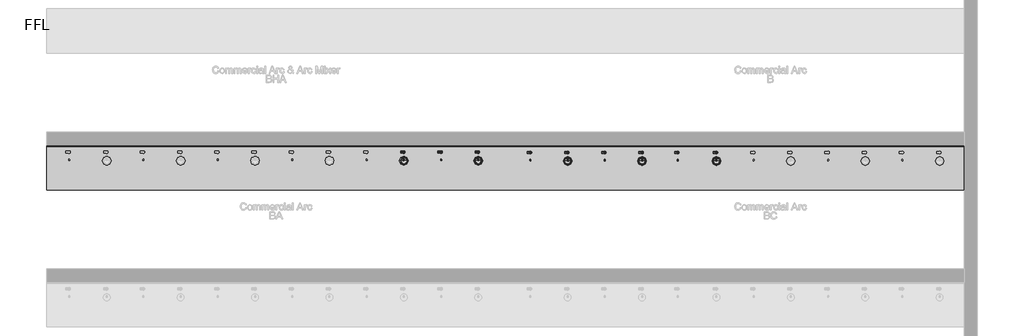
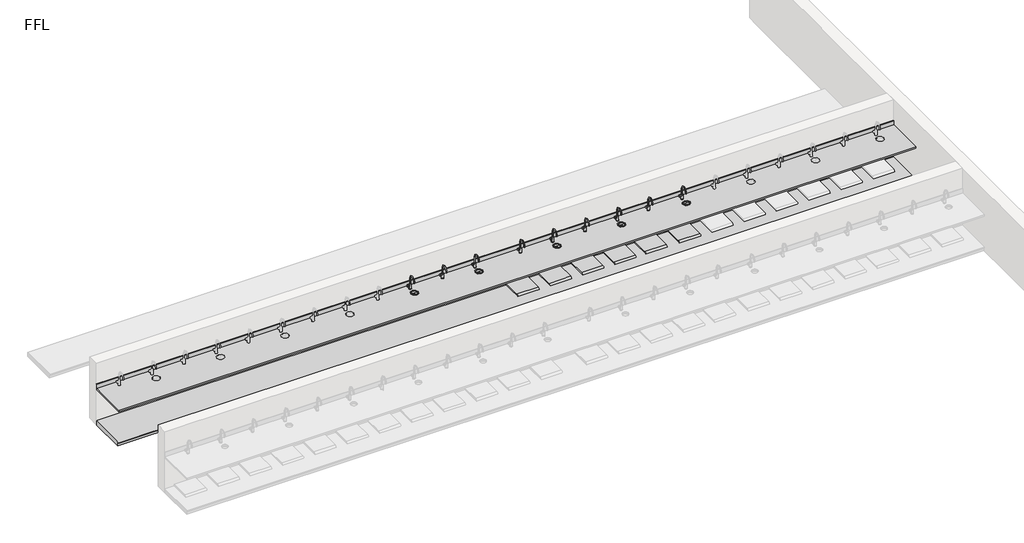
# One storey, part 5 of 10: 26 flow terminals, 2 furniture elements.
"""IFC4 building model written with IfcOpenShell, lengths in millimetres."""

from ifc_helpers import new_model, si_unit, frame, origin, place, context, project, spatial, polyline, circle_curve, transform, mapped, element, save
from ifc_brep_helpers import plane_surface, revolved_surface, advanced_brep
from components import flow_terminal_1fd3c137, bcs_and_bc_6de74493, bright_chrome_dafbc2dd, brushed_chrome_743c02cf, generic_plinth_900mm_f287d53f

model = new_model("IFC4")

# Units and contexts
model_context = context("Model", 3, world=origin())
ifc_project = project(units=[si_unit("LENGTHUNIT", "METRE", prefix="MILLI")], contexts=[model_context])

# Site, building, storey
site = spatial("IfcSite", under=ifc_project)
building = spatial("IfcBuilding", under=site)
storey = spatial("IfcBuildingStorey", under=building, Name="FFL", Elevation=0.0)

# Flow terminals
placement = place(None, origin())
flow_terminal_shape = flow_terminal_1fd3c137(model_context)
element("IfcFlowTerminal", 1, ObjectType="z_PlumFixt_Zenith_Booster : Booster", at=placement, inside=storey, context=model_context, shape_type="MappedRepresentation", body=[
    mapped(flow_terminal_shape, transform((6536.2647071, 2380.2393304, 538.0), x_axis=(1.0, 0.0, 0.0), y_axis=(0.0, 1.0, 0.0), z_axis=(0.0, 0.0, 1.0))),
])
element("IfcFlowTerminal", 2, ObjectType="z_PlumFixt_Zenith_Booster : Booster", at=placement, inside=storey, context=model_context, shape_type="MappedRepresentation", body=[
    mapped(flow_terminal_shape, transform((5758.2647071, 2380.2393304, 538.0), x_axis=(1.0, 0.0, 0.0), y_axis=(0.0, 1.0, 0.0), z_axis=(0.0, 0.0, 1.0))),
])
element("IfcFlowTerminal", 3, ObjectType="z_PlumFixt_Zenith_Booster : Booster", at=placement, inside=storey, context=model_context, shape_type="MappedRepresentation", body=[
    mapped(flow_terminal_shape, transform((5036.2647071, 2380.2393304, 538.0), x_axis=(1.0, 0.0, 0.0), y_axis=(0.0, 1.0, 0.0), z_axis=(0.0, 0.0, 1.0))),
])
element("IfcFlowTerminal", 4, ObjectType="z_PlumFixt_Zenith_Booster : Booster", at=placement, inside=storey, context=model_context, shape_type="MappedRepresentation", body=[
    mapped(flow_terminal_shape, transform((1733.2647071, 2380.2393304, 498.0), x_axis=(1.0, 0.0, 0.0), y_axis=(0.0, 1.0, 0.0), z_axis=(0.0, 0.0, 1.0))),
])
element("IfcFlowTerminal", 5, ObjectType="z_PlumFixt_Zenith_Booster : Booster", at=placement, inside=storey, context=model_context, shape_type="MappedRepresentation", body=[
    mapped(flow_terminal_shape, transform((983.2647071, 2380.2393304, 498.0), x_axis=(1.0, 0.0, 0.0), y_axis=(0.0, 1.0, 0.0), z_axis=(0.0, 0.0, 1.0))),
])
element("IfcFlowTerminal", 6, ObjectType="z_PlumFixt_Zenith_Booster : Booster", at=placement, inside=storey, context=model_context, shape_type="MappedRepresentation", body=[
    mapped(flow_terminal_shape, transform((233.2647071, 2380.2393304, 498.0), x_axis=(1.0, 0.0, 0.0), y_axis=(0.0, 1.0, 0.0), z_axis=(0.0, 0.0, 1.0))),
])
bcs_and_bc_shape = bcs_and_bc_6de74493(model_context)
element("IfcFlowTerminal", 7, ObjectType="z_PlumFixt_Zenith_Vent Tray : BCS and BC", at=placement, inside=storey, context=model_context, shape_type="MappedRepresentation", body=[
    mapped(bcs_and_bc_shape, transform((2786.2647071, 2200.7393304, 100.0), x_axis=(1.0, 0.0, 0.0), y_axis=(0.0, 1.0, 0.0), z_axis=(0.0, 0.0, 1.0))),
])
element("IfcFlowTerminal", 8, ObjectType="z_PlumFixt_Zenith_Vent Tray : BCS and BC", at=placement, inside=storey, context=model_context, shape_type="MappedRepresentation", body=[
    mapped(bcs_and_bc_shape, transform((3536.2647071, 2200.7393304, 100.0), x_axis=(1.0, 0.0, 0.0), y_axis=(0.0, 1.0, 0.0), z_axis=(0.0, 0.0, 1.0))),
])
element("IfcFlowTerminal", 9, ObjectType="z_PlumFixt_Zenith_Vent Tray : BCS and BC", at=placement, inside=storey, context=model_context, shape_type="MappedRepresentation", body=[
    mapped(bcs_and_bc_shape, transform((4286.2647071, 2200.7393304, 100.0), x_axis=(1.0, 0.0, 0.0), y_axis=(0.0, 1.0, 0.0), z_axis=(0.0, 0.0, 1.0))),
])
element("IfcFlowTerminal", 10, ObjectType="z_PlumFixt_Zenith_Vent Tray : BCS and BC", at=placement, inside=storey, context=model_context, shape_type="MappedRepresentation", body=[
    mapped(bcs_and_bc_shape, transform((5036.2647071, 2200.7393304, 100.0), x_axis=(1.0, 0.0, 0.0), y_axis=(0.0, 1.0, 0.0), z_axis=(0.0, 0.0, 1.0))),
])
element("IfcFlowTerminal", 11, ObjectType="z_PlumFixt_Zenith_Vent Tray : BCS and BC", at=placement, inside=storey, context=model_context, shape_type="MappedRepresentation", body=[
    mapped(bcs_and_bc_shape, transform((5758.2647071, 2200.7393304, 100.0), x_axis=(1.0, 0.0, 0.0), y_axis=(0.0, 1.0, 0.0), z_axis=(0.0, 0.0, 1.0))),
])
element("IfcFlowTerminal", 12, ObjectType="z_PlumFixt_Zenith_Vent Tray : BCS and BC", at=placement, inside=storey, context=model_context, shape_type="MappedRepresentation", body=[
    mapped(bcs_and_bc_shape, transform((6536.2647071, 2200.7393304, 100.0), x_axis=(1.0, 0.0, 0.0), y_axis=(0.0, 1.0, 0.0), z_axis=(0.0, 0.0, 1.0))),
])
bright_chrome_shape = bright_chrome_dafbc2dd(model_context)
element("IfcFlowTerminal", 13, ObjectType="z_PlumFixt_Zenith_Arc : Bright Chrome", at=placement, inside=storey, context=model_context, shape_type="MappedRepresentation", body=[
    mapped(bright_chrome_shape, transform((2769.2647071, 2099.3893304, 900.0), x_axis=(1.0, 0.0, 0.0), y_axis=(0.0, 1.0, 0.0), z_axis=(0.0, 0.0, 1.0))),
])
brushed_chrome_shape = brushed_chrome_743c02cf(model_context)
element("IfcFlowTerminal", 14, ObjectType="z_PlumFixt_Zenith_Font : Brushed Chrome", at=placement, inside=storey, context=model_context, shape_type="MappedRepresentation", body=[
    mapped(brushed_chrome_shape, transform((3536.2647071, 1999.8893304, 900.0), x_axis=(1.0, 0.0, 0.0), y_axis=(0.0, 1.0, 0.0), z_axis=(0.0, 0.0, 1.0))),
])
element("IfcFlowTerminal", 15, ObjectType="z_PlumFixt_Zenith_Arc : Brushed Chrome", at=placement, inside=storey, context=model_context, shape_type="MappedRepresentation", body=[
    mapped(bright_chrome_shape, transform((3519.2647071, 2099.3893304, 900.0), x_axis=(1.0, 0.0, 0.0), y_axis=(0.0, 1.0, 0.0), z_axis=(0.0, 0.0, 1.0))),
])
element("IfcFlowTerminal", 16, ObjectType="z_PlumFixt_Zenith_Arc : Brushed Gold", at=placement, inside=storey, context=model_context, shape_type="MappedRepresentation", body=[
    mapped(bright_chrome_shape, transform((4269.2647071, 2099.3893304, 900.0), x_axis=(1.0, 0.0, 0.0), y_axis=(0.0, 1.0, 0.0), z_axis=(0.0, 0.0, 1.0))),
])
element("IfcFlowTerminal", 17, ObjectType="z_PlumFixt_Zenith_Font : Brushed Nickel", at=placement, inside=storey, context=model_context, shape_type="MappedRepresentation", body=[
    mapped(brushed_chrome_shape, transform((5036.2647071, 1999.8893304, 900.0), x_axis=(1.0, 0.0, 0.0), y_axis=(0.0, 1.0, 0.0), z_axis=(0.0, 0.0, 1.0))),
])
element("IfcFlowTerminal", 18, ObjectType="z_PlumFixt_Zenith_Arc : Brushed Nickel", at=placement, inside=storey, context=model_context, shape_type="MappedRepresentation", body=[
    mapped(bright_chrome_shape, transform((5019.2647071, 2099.3893304, 900.0), x_axis=(1.0, 0.0, 0.0), y_axis=(0.0, 1.0, 0.0), z_axis=(0.0, 0.0, 1.0))),
])
element("IfcFlowTerminal", 19, ObjectType="z_PlumFixt_Zenith_Arc : Brushed Rose Gold", at=placement, inside=storey, context=model_context, shape_type="MappedRepresentation", body=[
    mapped(bright_chrome_shape, transform((5741.2647071, 2099.3893304, 900.0), x_axis=(1.0, 0.0, 0.0), y_axis=(0.0, 1.0, 0.0), z_axis=(0.0, 0.0, 1.0))),
])
element("IfcFlowTerminal", 20, ObjectType="z_PlumFixt_Zenith_Font : Gloss Black", at=placement, inside=storey, context=model_context, shape_type="MappedRepresentation", body=[
    mapped(brushed_chrome_shape, transform((6536.2647071, 1999.8893304, 900.0), x_axis=(1.0, 0.0, 0.0), y_axis=(0.0, 1.0, 0.0), z_axis=(0.0, 0.0, 1.0))),
])
element("IfcFlowTerminal", 21, ObjectType="z_PlumFixt_Zenith_Arc : Gloss Black", at=placement, inside=storey, context=model_context, shape_type="MappedRepresentation", body=[
    mapped(bright_chrome_shape, transform((6519.2647071, 2099.3893304, 900.0), x_axis=(1.0, 0.0, 0.0), y_axis=(0.0, 1.0, 0.0), z_axis=(0.0, 0.0, 1.0))),
])
element("IfcFlowTerminal", 22, ObjectType="z_PlumFixt_Zenith_Font : Nickel", at=placement, inside=storey, context=model_context, shape_type="MappedRepresentation", body=[
    mapped(brushed_chrome_shape, transform((233.2647071, 2006.2393304, 900.0), x_axis=(1.0, 0.0, 0.0), y_axis=(0.0, 1.0, 0.0), z_axis=(0.0, 0.0, 1.0))),
])
element("IfcFlowTerminal", 23, ObjectType="z_PlumFixt_Zenith_Arc : Nickel", at=placement, inside=storey, context=model_context, shape_type="MappedRepresentation", body=[
    mapped(bright_chrome_shape, transform((216.2647071, 2105.7393304, 900.0), x_axis=(1.0, 0.0, 0.0), y_axis=(0.0, 1.0, 0.0), z_axis=(0.0, 0.0, 1.0))),
])
element("IfcFlowTerminal", 24, ObjectType="z_PlumFixt_Zenith_Arc : Platinum", at=placement, inside=storey, context=model_context, shape_type="MappedRepresentation", body=[
    mapped(bright_chrome_shape, transform((966.2647071, 2105.7393304, 900.0), x_axis=(1.0, 0.0, 0.0), y_axis=(0.0, 1.0, 0.0), z_axis=(0.0, 0.0, 1.0))),
])
element("IfcFlowTerminal", 25, ObjectType="z_PlumFixt_Zenith_Font : Rose Gold", at=placement, inside=storey, context=model_context, shape_type="MappedRepresentation", body=[
    mapped(brushed_chrome_shape, transform((1733.2647071, 2006.2393304, 900.0), x_axis=(1.0, 0.0, 0.0), y_axis=(0.0, 1.0, 0.0), z_axis=(0.0, 0.0, 1.0))),
])
element("IfcFlowTerminal", 26, ObjectType="z_PlumFixt_Zenith_Arc : Rose Gold", at=placement, inside=storey, context=model_context, shape_type="MappedRepresentation", body=[
    mapped(bright_chrome_shape, transform((1716.2647071, 2105.7393304, 900.0), x_axis=(1.0, 0.0, 0.0), y_axis=(0.0, 1.0, 0.0), z_axis=(0.0, 0.0, 1.0))),
])

# Furniture
element("IfcFurniture", 27, ObjectType="Counter Top : 900mm Depth", at=placement, inside=storey, context=model_context, shape_type="AdvancedBrep", body=[
    advanced_brep(
    [(-6969.7352929, 1428.2393304, 900.0), (11530.2647071, 1428.2393304, 900.0), (11530.2647071, 2309.1893304, 900.0), (-6969.7352929, 2309.1893304, 900.0), (-6539.7352929, 2193.2393304, 900.0), (-6491.7352929, 2193.2393304, 900.0), (-5779.7352929, 2193.2393304, 900.0), (-5731.7352929, 2193.2393304, 900.0), (-5687.5352929, 2021.2496462, 900.0), (-5823.9352929, 2021.2496462, 900.0), (-5039.7352929, 2193.2393304, 900.0), (-4991.7352929, 2193.2393304, 900.0), (-4289.7352929, 2193.2393304, 900.0), (-4241.7352929, 2193.2393304, 900.0), (-4197.5352929, 2021.2496462, 900.0), (-4333.9352929, 2021.2496462, 900.0), (-3539.7352929, 2193.2393304, 900.0), (-3491.7352929, 2193.2393304, 900.0), (-2789.7352929, 2193.2393304, 900.0), (-2741.7352929, 2193.2393304, 900.0), (-2697.5352929, 2021.2496462, 900.0), (-2833.9352929, 2021.2496462, 900.0), (-2039.7352929, 2193.2393304, 900.0), (-1991.7352929, 2193.2393304, 900.0), (-1289.7352929, 2193.2393304, 900.0), (-1241.7352929, 2193.2393304, 900.0), (-1197.5352929, 2021.2496462, 900.0), (-1333.9352929, 2021.2496462, 900.0), (-539.7352929, 2193.2393304, 900.0), (-491.7352929, 2193.2393304, 900.0), (210.2647071, 2193.2393304, 900.0), (258.2647071, 2193.2393304, 900.0), (302.4647071, 2021.2496462, 900.0), (166.0647071, 2021.2496462, 900.0), (960.2647071, 2193.2393304, 900.0), (1008.2647071, 2193.2393304, 900.0), (1710.2647071, 2193.2393304, 900.0), (1758.2647071, 2193.2393304, 900.0), (1802.4647071, 2021.2496462, 900.0), (1666.0647071, 2021.2496462, 900.0), (2763.2647071, 2186.8893304, 900.0), (2811.2647071, 2186.8893304, 900.0), (3513.2647071, 2186.8893304, 900.0), (3561.2647071, 2186.8893304, 900.0), (3605.4647071, 2014.8996462, 900.0), (3469.0647071, 2014.8996462, 900.0), (4263.2647071, 2186.8893304, 900.0), (4311.2647071, 2186.8893304, 900.0), (5013.2647071, 2186.8893304, 900.0), (5061.2647071, 2186.8893304, 900.0), (5105.4647071, 2014.8996462, 900.0), (4969.0647071, 2014.8996462, 900.0), (5735.2647071, 2186.8893304, 900.0), (5783.2647071, 2186.8893304, 900.0), (6513.2647071, 2186.8893304, 900.0), (6561.2647071, 2186.8893304, 900.0), (6605.4647071, 2014.8996462, 900.0), (6469.0647071, 2014.8996462, 900.0), (7263.2647071, 2186.8893304, 900.0), (7311.2647071, 2186.8893304, 900.0), (8013.2647071, 2186.8893304, 900.0), (8061.2647071, 2186.8893304, 900.0), (8105.4647071, 2014.8996462, 900.0), (7969.0647071, 2014.8996462, 900.0), (8763.2647071, 2186.8893304, 900.0), (8811.2647071, 2186.8893304, 900.0), (9513.2647071, 2186.8893304, 900.0), (9561.2647071, 2186.8893304, 900.0), (9605.4647071, 2014.8996462, 900.0), (9469.0647071, 2014.8996462, 900.0), (10263.2647071, 2186.8893304, 900.0), (10311.2647071, 2186.8893304, 900.0), (11013.2647071, 2186.8893304, 900.0), (11061.2647071, 2186.8893304, 900.0), (11105.4647071, 2014.8996462, 900.0), (10969.0647071, 2014.8996462, 900.0), (11530.2647071, 2328.2393304, 860.0), (11530.2647071, 1428.2393304, 860.0), (-6969.7352929, 1428.2393304, 860.0), (-6969.7352929, 2328.2393304, 860.0), (-6491.7352929, 2193.2393304, 860.0), (-6539.7352929, 2193.2393304, 860.0), (-5731.7352929, 2193.2393304, 860.0), (-5779.7352929, 2193.2393304, 860.0), (-5823.9352929, 2021.2496462, 860.0), (-5687.5352929, 2021.2496462, 860.0), (-4991.7352929, 2193.2393304, 860.0), (-5039.7352929, 2193.2393304, 860.0), (-4241.7352929, 2193.2393304, 860.0), (-4289.7352929, 2193.2393304, 860.0), (-4333.9352929, 2021.2496462, 860.0), (-4197.5352929, 2021.2496462, 860.0), (-3491.7352929, 2193.2393304, 860.0), (-3539.7352929, 2193.2393304, 860.0), (-2741.7352929, 2193.2393304, 860.0), (-2789.7352929, 2193.2393304, 860.0), (-2833.9352929, 2021.2496462, 860.0), (-2697.5352929, 2021.2496462, 860.0), (-1991.7352929, 2193.2393304, 860.0), (-2039.7352929, 2193.2393304, 860.0), (-1241.7352929, 2193.2393304, 860.0), (-1289.7352929, 2193.2393304, 860.0), (-1333.9352929, 2021.2496462, 860.0), (-1197.5352929, 2021.2496462, 860.0), (-491.7352929, 2193.2393304, 860.0), (-539.7352929, 2193.2393304, 860.0), (258.2647071, 2193.2393304, 860.0), (210.2647071, 2193.2393304, 860.0), (166.0647071, 2021.2496462, 860.0), (302.4647071, 2021.2496462, 860.0), (1008.2647071, 2193.2393304, 860.0), (960.2647071, 2193.2393304, 860.0), (1758.2647071, 2193.2393304, 860.0), (1710.2647071, 2193.2393304, 860.0), (1666.0647071, 2021.2496462, 860.0), (1802.4647071, 2021.2496462, 860.0), (2811.2647071, 2186.8893304, 860.0), (2763.2647071, 2186.8893304, 860.0), (3561.2647071, 2186.8893304, 860.0), (3513.2647071, 2186.8893304, 860.0), (3469.0647071, 2014.8996462, 860.0), (3605.4647071, 2014.8996462, 860.0), (4311.2647071, 2186.8893304, 860.0), (4263.2647071, 2186.8893304, 860.0), (5061.2647071, 2186.8893304, 860.0), (5013.2647071, 2186.8893304, 860.0), (4969.0647071, 2014.8996462, 860.0), (5105.4647071, 2014.8996462, 860.0), (5783.2647071, 2186.8893304, 860.0), (5735.2647071, 2186.8893304, 860.0), (6561.2647071, 2186.8893304, 860.0), (6513.2647071, 2186.8893304, 860.0), (6469.0647071, 2014.8996462, 860.0), (6605.4647071, 2014.8996462, 860.0), (7311.2647071, 2186.8893304, 860.0), (7263.2647071, 2186.8893304, 860.0), (8061.2647071, 2186.8893304, 860.0), (8013.2647071, 2186.8893304, 860.0), (7969.0647071, 2014.8996462, 860.0), (8105.4647071, 2014.8996462, 860.0), (8811.2647071, 2186.8893304, 860.0), (8763.2647071, 2186.8893304, 860.0), (9561.2647071, 2186.8893304, 860.0), (9513.2647071, 2186.8893304, 860.0), (9469.0647071, 2014.8996462, 860.0), (9605.4647071, 2014.8996462, 860.0), (10311.2647071, 2186.8893304, 860.0), (10263.2647071, 2186.8893304, 860.0), (11061.2647071, 2186.8893304, 860.0), (11013.2647071, 2186.8893304, 860.0), (10969.0647071, 2014.8996462, 860.0), (11105.4647071, 2014.8996462, 860.0), (-6969.7352929, 2328.2393304, 1001.6), (11530.2647071, 2328.2393304, 1001.6), (-6969.7352929, 2309.1893304, 1001.6), (11530.2647071, 2309.1893304, 1001.6)],
    [
        (0, 1),
        (1, 2),
        (2, 3),
        (3, 0),
        (4, 5, circle_curve(frame((-6515.7352929, 2193.2393304, 900.0), z_axis=(0.0, 0.0, -1.0), x_axis=(-1.0, 0.0, 0.0)), 24.0)),
        (5, 4, circle_curve(frame((-6515.7352929, 2193.2393304, 900.0), z_axis=(0.0, 0.0, -1.0), x_axis=(-1.0, 0.0, 0.0)), 24.0)),
        (6, 7, circle_curve(frame((-5755.7352929, 2193.2393304, 900.0), z_axis=(0.0, 0.0, -1.0), x_axis=(-1.0, 0.0, 0.0)), 24.0)),
        (7, 6, circle_curve(frame((-5755.7352929, 2193.2393304, 900.0), z_axis=(0.0, 0.0, -1.0), x_axis=(-1.0, 0.0, 0.0)), 24.0)),
        (8, 9, circle_curve(frame((-5755.7352929, 2021.2496462, 900.0), z_axis=(0.0, 0.0, -1.0), x_axis=(-1.0, 0.0, 0.0)), 68.2)),
        (9, 8, circle_curve(frame((-5755.7352929, 2021.2496462, 900.0), z_axis=(0.0, 0.0, -1.0), x_axis=(-1.0, 0.0, 0.0)), 68.2)),
        (10, 11, circle_curve(frame((-5015.7352929, 2193.2393304, 900.0), z_axis=(0.0, 0.0, -1.0), x_axis=(-1.0, 0.0, 0.0)), 24.0)),
        (11, 10, circle_curve(frame((-5015.7352929, 2193.2393304, 900.0), z_axis=(0.0, 0.0, -1.0), x_axis=(-1.0, 0.0, 0.0)), 24.0)),
        (12, 13, circle_curve(frame((-4265.7352929, 2193.2393304, 900.0), z_axis=(0.0, 0.0, -1.0), x_axis=(-1.0, 0.0, 0.0)), 24.0)),
        (13, 12, circle_curve(frame((-4265.7352929, 2193.2393304, 900.0), z_axis=(0.0, 0.0, -1.0), x_axis=(-1.0, 0.0, 0.0)), 24.0)),
        (14, 15, circle_curve(frame((-4265.7352929, 2021.2496462, 900.0), z_axis=(0.0, 0.0, -1.0), x_axis=(-1.0, 0.0, 0.0)), 68.2)),
        (15, 14, circle_curve(frame((-4265.7352929, 2021.2496462, 900.0), z_axis=(0.0, 0.0, -1.0), x_axis=(-1.0, 0.0, 0.0)), 68.2)),
        (16, 17, circle_curve(frame((-3515.7352929, 2193.2393304, 900.0), z_axis=(0.0, 0.0, -1.0), x_axis=(-1.0, 0.0, 0.0)), 24.0)),
        (17, 16, circle_curve(frame((-3515.7352929, 2193.2393304, 900.0), z_axis=(0.0, 0.0, -1.0), x_axis=(-1.0, 0.0, 0.0)), 24.0)),
        (18, 19, circle_curve(frame((-2765.7352929, 2193.2393304, 900.0), z_axis=(0.0, 0.0, -1.0), x_axis=(-1.0, 0.0, 0.0)), 24.0)),
        (19, 18, circle_curve(frame((-2765.7352929, 2193.2393304, 900.0), z_axis=(0.0, 0.0, -1.0), x_axis=(-1.0, 0.0, 0.0)), 24.0)),
        (20, 21, circle_curve(frame((-2765.7352929, 2021.2496462, 900.0), z_axis=(0.0, 0.0, -1.0), x_axis=(-1.0, 0.0, 0.0)), 68.2)),
        (21, 20, circle_curve(frame((-2765.7352929, 2021.2496462, 900.0), z_axis=(0.0, 0.0, -1.0), x_axis=(-1.0, 0.0, 0.0)), 68.2)),
        (22, 23, circle_curve(frame((-2015.7352929, 2193.2393304, 900.0), z_axis=(0.0, 0.0, -1.0), x_axis=(-1.0, 0.0, 0.0)), 24.0)),
        (23, 22, circle_curve(frame((-2015.7352929, 2193.2393304, 900.0), z_axis=(0.0, 0.0, -1.0), x_axis=(-1.0, 0.0, 0.0)), 24.0)),
        (24, 25, circle_curve(frame((-1265.7352929, 2193.2393304, 900.0), z_axis=(0.0, 0.0, -1.0), x_axis=(-1.0, 0.0, 0.0)), 24.0)),
        (25, 24, circle_curve(frame((-1265.7352929, 2193.2393304, 900.0), z_axis=(0.0, 0.0, -1.0), x_axis=(-1.0, 0.0, 0.0)), 24.0)),
        (26, 27, circle_curve(frame((-1265.7352929, 2021.2496462, 900.0), z_axis=(0.0, 0.0, -1.0), x_axis=(-1.0, 0.0, 0.0)), 68.2)),
        (27, 26, circle_curve(frame((-1265.7352929, 2021.2496462, 900.0), z_axis=(0.0, 0.0, -1.0), x_axis=(-1.0, 0.0, 0.0)), 68.2)),
        (28, 29, circle_curve(frame((-515.7352929, 2193.2393304, 900.0), z_axis=(0.0, 0.0, -1.0), x_axis=(-1.0, 0.0, 0.0)), 24.0)),
        (29, 28, circle_curve(frame((-515.7352929, 2193.2393304, 900.0), z_axis=(0.0, 0.0, -1.0), x_axis=(-1.0, 0.0, 0.0)), 24.0)),
        (30, 31, circle_curve(frame((234.2647071, 2193.2393304, 900.0), z_axis=(0.0, 0.0, -1.0), x_axis=(-1.0, 0.0, 0.0)), 24.0)),
        (31, 30, circle_curve(frame((234.2647071, 2193.2393304, 900.0), z_axis=(0.0, 0.0, -1.0), x_axis=(-1.0, 0.0, 0.0)), 24.0)),
        (32, 33, circle_curve(frame((234.2647071, 2021.2496462, 900.0), z_axis=(0.0, 0.0, -1.0), x_axis=(-1.0, 0.0, 0.0)), 68.2)),
        (33, 32, circle_curve(frame((234.2647071, 2021.2496462, 900.0), z_axis=(0.0, 0.0, -1.0), x_axis=(-1.0, 0.0, 0.0)), 68.2)),
        (34, 35, circle_curve(frame((984.2647071, 2193.2393304, 900.0), z_axis=(0.0, 0.0, -1.0), x_axis=(-1.0, 0.0, 0.0)), 24.0)),
        (35, 34, circle_curve(frame((984.2647071, 2193.2393304, 900.0), z_axis=(0.0, 0.0, -1.0), x_axis=(-1.0, 0.0, 0.0)), 24.0)),
        (36, 37, circle_curve(frame((1734.2647071, 2193.2393304, 900.0), z_axis=(0.0, 0.0, -1.0), x_axis=(-1.0, 0.0, 0.0)), 24.0)),
        (37, 36, circle_curve(frame((1734.2647071, 2193.2393304, 900.0), z_axis=(0.0, 0.0, -1.0), x_axis=(-1.0, 0.0, 0.0)), 24.0)),
        (38, 39, circle_curve(frame((1734.2647071, 2021.2496462, 900.0), z_axis=(0.0, 0.0, -1.0), x_axis=(-1.0, 0.0, 0.0)), 68.2)),
        (39, 38, circle_curve(frame((1734.2647071, 2021.2496462, 900.0), z_axis=(0.0, 0.0, -1.0), x_axis=(-1.0, 0.0, 0.0)), 68.2)),
        (40, 41, circle_curve(frame((2787.2647071, 2186.8893304, 900.0), z_axis=(0.0, 0.0, -1.0), x_axis=(-1.0, 0.0, 0.0)), 24.0)),
        (41, 40, circle_curve(frame((2787.2647071, 2186.8893304, 900.0), z_axis=(0.0, 0.0, -1.0), x_axis=(-1.0, 0.0, 0.0)), 24.0)),
        (42, 43, circle_curve(frame((3537.2647071, 2186.8893304, 900.0), z_axis=(0.0, 0.0, -1.0), x_axis=(-1.0, 0.0, 0.0)), 24.0)),
        (43, 42, circle_curve(frame((3537.2647071, 2186.8893304, 900.0), z_axis=(0.0, 0.0, -1.0), x_axis=(-1.0, 0.0, 0.0)), 24.0)),
        (44, 45, circle_curve(frame((3537.2647071, 2014.8996462, 900.0), z_axis=(0.0, 0.0, -1.0), x_axis=(-1.0, 0.0, 0.0)), 68.2)),
        (45, 44, circle_curve(frame((3537.2647071, 2014.8996462, 900.0), z_axis=(0.0, 0.0, -1.0), x_axis=(-1.0, 0.0, 0.0)), 68.2)),
        (46, 47, circle_curve(frame((4287.2647071, 2186.8893304, 900.0), z_axis=(0.0, 0.0, -1.0), x_axis=(-1.0, 0.0, 0.0)), 24.0)),
        (47, 46, circle_curve(frame((4287.2647071, 2186.8893304, 900.0), z_axis=(0.0, 0.0, -1.0), x_axis=(-1.0, 0.0, 0.0)), 24.0)),
        (48, 49, circle_curve(frame((5037.2647071, 2186.8893304, 900.0), z_axis=(0.0, 0.0, -1.0), x_axis=(-1.0, 0.0, 0.0)), 24.0)),
        (49, 48, circle_curve(frame((5037.2647071, 2186.8893304, 900.0), z_axis=(0.0, 0.0, -1.0), x_axis=(-1.0, 0.0, 0.0)), 24.0)),
        (50, 51, circle_curve(frame((5037.2647071, 2014.8996462, 900.0), z_axis=(0.0, 0.0, -1.0), x_axis=(-1.0, 0.0, 0.0)), 68.2)),
        (51, 50, circle_curve(frame((5037.2647071, 2014.8996462, 900.0), z_axis=(0.0, 0.0, -1.0), x_axis=(-1.0, 0.0, 0.0)), 68.2)),
        (52, 53, circle_curve(frame((5759.2647071, 2186.8893304, 900.0), z_axis=(0.0, 0.0, -1.0), x_axis=(-1.0, 0.0, 0.0)), 24.0)),
        (53, 52, circle_curve(frame((5759.2647071, 2186.8893304, 900.0), z_axis=(0.0, 0.0, -1.0), x_axis=(-1.0, 0.0, 0.0)), 24.0)),
        (54, 55, circle_curve(frame((6537.2647071, 2186.8893304, 900.0), z_axis=(0.0, 0.0, -1.0), x_axis=(-1.0, 0.0, 0.0)), 24.0)),
        (55, 54, circle_curve(frame((6537.2647071, 2186.8893304, 900.0), z_axis=(0.0, 0.0, -1.0), x_axis=(-1.0, 0.0, 0.0)), 24.0)),
        (56, 57, circle_curve(frame((6537.2647071, 2014.8996462, 900.0), z_axis=(0.0, 0.0, -1.0), x_axis=(-1.0, 0.0, 0.0)), 68.2)),
        (57, 56, circle_curve(frame((6537.2647071, 2014.8996462, 900.0), z_axis=(0.0, 0.0, -1.0), x_axis=(-1.0, 0.0, 0.0)), 68.2)),
        (58, 59, circle_curve(frame((7287.2647071, 2186.8893304, 900.0), z_axis=(0.0, 0.0, -1.0), x_axis=(-1.0, 0.0, 0.0)), 24.0)),
        (59, 58, circle_curve(frame((7287.2647071, 2186.8893304, 900.0), z_axis=(0.0, 0.0, -1.0), x_axis=(-1.0, 0.0, 0.0)), 24.0)),
        (60, 61, circle_curve(frame((8037.2647071, 2186.8893304, 900.0), z_axis=(0.0, 0.0, -1.0), x_axis=(-1.0, 0.0, 0.0)), 24.0)),
        (61, 60, circle_curve(frame((8037.2647071, 2186.8893304, 900.0), z_axis=(0.0, 0.0, -1.0), x_axis=(-1.0, 0.0, 0.0)), 24.0)),
        (62, 63, circle_curve(frame((8037.2647071, 2014.8996462, 900.0), z_axis=(0.0, 0.0, -1.0), x_axis=(-1.0, 0.0, 0.0)), 68.2)),
        (63, 62, circle_curve(frame((8037.2647071, 2014.8996462, 900.0), z_axis=(0.0, 0.0, -1.0), x_axis=(-1.0, 0.0, 0.0)), 68.2)),
        (64, 65, circle_curve(frame((8787.2647071, 2186.8893304, 900.0), z_axis=(0.0, 0.0, -1.0), x_axis=(-1.0, 0.0, 0.0)), 24.0)),
        (65, 64, circle_curve(frame((8787.2647071, 2186.8893304, 900.0), z_axis=(0.0, 0.0, -1.0), x_axis=(-1.0, 0.0, 0.0)), 24.0)),
        (66, 67, circle_curve(frame((9537.2647071, 2186.8893304, 900.0), z_axis=(0.0, 0.0, -1.0), x_axis=(-1.0, 0.0, 0.0)), 24.0)),
        (67, 66, circle_curve(frame((9537.2647071, 2186.8893304, 900.0), z_axis=(0.0, 0.0, -1.0), x_axis=(-1.0, 0.0, 0.0)), 24.0)),
        (68, 69, circle_curve(frame((9537.2647071, 2014.8996462, 900.0), z_axis=(0.0, 0.0, -1.0), x_axis=(-1.0, 0.0, 0.0)), 68.2)),
        (69, 68, circle_curve(frame((9537.2647071, 2014.8996462, 900.0), z_axis=(0.0, 0.0, -1.0), x_axis=(-1.0, 0.0, 0.0)), 68.2)),
        (70, 71, circle_curve(frame((10287.2647071, 2186.8893304, 900.0), z_axis=(0.0, 0.0, -1.0), x_axis=(-1.0, 0.0, 0.0)), 24.0)),
        (71, 70, circle_curve(frame((10287.2647071, 2186.8893304, 900.0), z_axis=(0.0, 0.0, -1.0), x_axis=(-1.0, 0.0, 0.0)), 24.0)),
        (72, 73, circle_curve(frame((11037.2647071, 2186.8893304, 900.0), z_axis=(0.0, 0.0, -1.0), x_axis=(-1.0, 0.0, 0.0)), 24.0)),
        (73, 72, circle_curve(frame((11037.2647071, 2186.8893304, 900.0), z_axis=(0.0, 0.0, -1.0), x_axis=(-1.0, 0.0, 0.0)), 24.0)),
        (74, 75, circle_curve(frame((11037.2647071, 2014.8996462, 900.0), z_axis=(0.0, 0.0, -1.0), x_axis=(-1.0, 0.0, 0.0)), 68.2)),
        (75, 74, circle_curve(frame((11037.2647071, 2014.8996462, 900.0), z_axis=(0.0, 0.0, -1.0), x_axis=(-1.0, 0.0, 0.0)), 68.2)),
        (76, 77),
        (77, 78),
        (78, 79),
        (79, 76),
        (80, 81, circle_curve(frame((-6515.7352929, 2193.2393304, 860.0), z_axis=(0.0, 0.0, 1.0), x_axis=(-1.0, 0.0, 0.0)), 24.0)),
        (81, 80, circle_curve(frame((-6515.7352929, 2193.2393304, 860.0), z_axis=(0.0, 0.0, 1.0), x_axis=(-1.0, 0.0, 0.0)), 24.0)),
        (82, 83, circle_curve(frame((-5755.7352929, 2193.2393304, 860.0), z_axis=(0.0, 0.0, 1.0), x_axis=(-1.0, 0.0, 0.0)), 24.0)),
        (83, 82, circle_curve(frame((-5755.7352929, 2193.2393304, 860.0), z_axis=(0.0, 0.0, 1.0), x_axis=(-1.0, 0.0, 0.0)), 24.0)),
        (84, 85, circle_curve(frame((-5755.7352929, 2021.2496462, 860.0), z_axis=(0.0, 0.0, 1.0), x_axis=(-1.0, 0.0, 0.0)), 68.2)),
        (85, 84, circle_curve(frame((-5755.7352929, 2021.2496462, 860.0), z_axis=(0.0, 0.0, 1.0), x_axis=(-1.0, 0.0, 0.0)), 68.2)),
        (86, 87, circle_curve(frame((-5015.7352929, 2193.2393304, 860.0), z_axis=(0.0, 0.0, 1.0), x_axis=(-1.0, 0.0, 0.0)), 24.0)),
        (87, 86, circle_curve(frame((-5015.7352929, 2193.2393304, 860.0), z_axis=(0.0, 0.0, 1.0), x_axis=(-1.0, 0.0, 0.0)), 24.0)),
        (88, 89, circle_curve(frame((-4265.7352929, 2193.2393304, 860.0), z_axis=(0.0, 0.0, 1.0), x_axis=(-1.0, 0.0, 0.0)), 24.0)),
        (89, 88, circle_curve(frame((-4265.7352929, 2193.2393304, 860.0), z_axis=(0.0, 0.0, 1.0), x_axis=(-1.0, 0.0, 0.0)), 24.0)),
        (90, 91, circle_curve(frame((-4265.7352929, 2021.2496462, 860.0), z_axis=(0.0, 0.0, 1.0), x_axis=(-1.0, 0.0, 0.0)), 68.2)),
        (91, 90, circle_curve(frame((-4265.7352929, 2021.2496462, 860.0), z_axis=(0.0, 0.0, 1.0), x_axis=(-1.0, 0.0, 0.0)), 68.2)),
        (92, 93, circle_curve(frame((-3515.7352929, 2193.2393304, 860.0), z_axis=(0.0, 0.0, 1.0), x_axis=(-1.0, 0.0, 0.0)), 24.0)),
        (93, 92, circle_curve(frame((-3515.7352929, 2193.2393304, 860.0), z_axis=(0.0, 0.0, 1.0), x_axis=(-1.0, 0.0, 0.0)), 24.0)),
        (94, 95, circle_curve(frame((-2765.7352929, 2193.2393304, 860.0), z_axis=(0.0, 0.0, 1.0), x_axis=(-1.0, 0.0, 0.0)), 24.0)),
        (95, 94, circle_curve(frame((-2765.7352929, 2193.2393304, 860.0), z_axis=(0.0, 0.0, 1.0), x_axis=(-1.0, 0.0, 0.0)), 24.0)),
        (96, 97, circle_curve(frame((-2765.7352929, 2021.2496462, 860.0), z_axis=(0.0, 0.0, 1.0), x_axis=(-1.0, 0.0, 0.0)), 68.2)),
        (97, 96, circle_curve(frame((-2765.7352929, 2021.2496462, 860.0), z_axis=(0.0, 0.0, 1.0), x_axis=(-1.0, 0.0, 0.0)), 68.2)),
        (98, 99, circle_curve(frame((-2015.7352929, 2193.2393304, 860.0), z_axis=(0.0, 0.0, 1.0), x_axis=(-1.0, 0.0, 0.0)), 24.0)),
        (99, 98, circle_curve(frame((-2015.7352929, 2193.2393304, 860.0), z_axis=(0.0, 0.0, 1.0), x_axis=(-1.0, 0.0, 0.0)), 24.0)),
        (100, 101, circle_curve(frame((-1265.7352929, 2193.2393304, 860.0), z_axis=(0.0, 0.0, 1.0), x_axis=(-1.0, 0.0, 0.0)), 24.0)),
        (101, 100, circle_curve(frame((-1265.7352929, 2193.2393304, 860.0), z_axis=(0.0, 0.0, 1.0), x_axis=(-1.0, 0.0, 0.0)), 24.0)),
        (102, 103, circle_curve(frame((-1265.7352929, 2021.2496462, 860.0), z_axis=(0.0, 0.0, 1.0), x_axis=(-1.0, 0.0, 0.0)), 68.2)),
        (103, 102, circle_curve(frame((-1265.7352929, 2021.2496462, 860.0), z_axis=(0.0, 0.0, 1.0), x_axis=(-1.0, 0.0, 0.0)), 68.2)),
        (104, 105, circle_curve(frame((-515.7352929, 2193.2393304, 860.0), z_axis=(0.0, 0.0, 1.0), x_axis=(-1.0, 0.0, 0.0)), 24.0)),
        (105, 104, circle_curve(frame((-515.7352929, 2193.2393304, 860.0), z_axis=(0.0, 0.0, 1.0), x_axis=(-1.0, 0.0, 0.0)), 24.0)),
        (106, 107, circle_curve(frame((234.2647071, 2193.2393304, 860.0), z_axis=(0.0, 0.0, 1.0), x_axis=(-1.0, 0.0, 0.0)), 24.0)),
        (107, 106, circle_curve(frame((234.2647071, 2193.2393304, 860.0), z_axis=(0.0, 0.0, 1.0), x_axis=(-1.0, 0.0, 0.0)), 24.0)),
        (108, 109, circle_curve(frame((234.2647071, 2021.2496462, 860.0), z_axis=(0.0, 0.0, 1.0), x_axis=(-1.0, 0.0, 0.0)), 68.2)),
        (109, 108, circle_curve(frame((234.2647071, 2021.2496462, 860.0), z_axis=(0.0, 0.0, 1.0), x_axis=(-1.0, 0.0, 0.0)), 68.2)),
        (110, 111, circle_curve(frame((984.2647071, 2193.2393304, 860.0), z_axis=(0.0, 0.0, 1.0), x_axis=(-1.0, 0.0, 0.0)), 24.0)),
        (111, 110, circle_curve(frame((984.2647071, 2193.2393304, 860.0), z_axis=(0.0, 0.0, 1.0), x_axis=(-1.0, 0.0, 0.0)), 24.0)),
        (112, 113, circle_curve(frame((1734.2647071, 2193.2393304, 860.0), z_axis=(0.0, 0.0, 1.0), x_axis=(-1.0, 0.0, 0.0)), 24.0)),
        (113, 112, circle_curve(frame((1734.2647071, 2193.2393304, 860.0), z_axis=(0.0, 0.0, 1.0), x_axis=(-1.0, 0.0, 0.0)), 24.0)),
        (114, 115, circle_curve(frame((1734.2647071, 2021.2496462, 860.0), z_axis=(0.0, 0.0, 1.0), x_axis=(-1.0, 0.0, 0.0)), 68.2)),
        (115, 114, circle_curve(frame((1734.2647071, 2021.2496462, 860.0), z_axis=(0.0, 0.0, 1.0), x_axis=(-1.0, 0.0, 0.0)), 68.2)),
        (116, 117, circle_curve(frame((2787.2647071, 2186.8893304, 860.0), z_axis=(0.0, 0.0, 1.0), x_axis=(-1.0, 0.0, 0.0)), 24.0)),
        (117, 116, circle_curve(frame((2787.2647071, 2186.8893304, 860.0), z_axis=(0.0, 0.0, 1.0), x_axis=(-1.0, 0.0, 0.0)), 24.0)),
        (118, 119, circle_curve(frame((3537.2647071, 2186.8893304, 860.0), z_axis=(0.0, 0.0, 1.0), x_axis=(-1.0, 0.0, 0.0)), 24.0)),
        (119, 118, circle_curve(frame((3537.2647071, 2186.8893304, 860.0), z_axis=(0.0, 0.0, 1.0), x_axis=(-1.0, 0.0, 0.0)), 24.0)),
        (120, 121, circle_curve(frame((3537.2647071, 2014.8996462, 860.0), z_axis=(0.0, 0.0, 1.0), x_axis=(-1.0, 0.0, 0.0)), 68.2)),
        (121, 120, circle_curve(frame((3537.2647071, 2014.8996462, 860.0), z_axis=(0.0, 0.0, 1.0), x_axis=(-1.0, 0.0, 0.0)), 68.2)),
        (122, 123, circle_curve(frame((4287.2647071, 2186.8893304, 860.0), z_axis=(0.0, 0.0, 1.0), x_axis=(-1.0, 0.0, 0.0)), 24.0)),
        (123, 122, circle_curve(frame((4287.2647071, 2186.8893304, 860.0), z_axis=(0.0, 0.0, 1.0), x_axis=(-1.0, 0.0, 0.0)), 24.0)),
        (124, 125, circle_curve(frame((5037.2647071, 2186.8893304, 860.0), z_axis=(0.0, 0.0, 1.0), x_axis=(-1.0, 0.0, 0.0)), 24.0)),
        (125, 124, circle_curve(frame((5037.2647071, 2186.8893304, 860.0), z_axis=(0.0, 0.0, 1.0), x_axis=(-1.0, 0.0, 0.0)), 24.0)),
        (126, 127, circle_curve(frame((5037.2647071, 2014.8996462, 860.0), z_axis=(0.0, 0.0, 1.0), x_axis=(-1.0, 0.0, 0.0)), 68.2)),
        (127, 126, circle_curve(frame((5037.2647071, 2014.8996462, 860.0), z_axis=(0.0, 0.0, 1.0), x_axis=(-1.0, 0.0, 0.0)), 68.2)),
        (128, 129, circle_curve(frame((5759.2647071, 2186.8893304, 860.0), z_axis=(0.0, 0.0, 1.0), x_axis=(-1.0, 0.0, 0.0)), 24.0)),
        (129, 128, circle_curve(frame((5759.2647071, 2186.8893304, 860.0), z_axis=(0.0, 0.0, 1.0), x_axis=(-1.0, 0.0, 0.0)), 24.0)),
        (130, 131, circle_curve(frame((6537.2647071, 2186.8893304, 860.0), z_axis=(0.0, 0.0, 1.0), x_axis=(-1.0, 0.0, 0.0)), 24.0)),
        (131, 130, circle_curve(frame((6537.2647071, 2186.8893304, 860.0), z_axis=(0.0, 0.0, 1.0), x_axis=(-1.0, 0.0, 0.0)), 24.0)),
        (132, 133, circle_curve(frame((6537.2647071, 2014.8996462, 860.0), z_axis=(0.0, 0.0, 1.0), x_axis=(-1.0, 0.0, 0.0)), 68.2)),
        (133, 132, circle_curve(frame((6537.2647071, 2014.8996462, 860.0), z_axis=(0.0, 0.0, 1.0), x_axis=(-1.0, 0.0, 0.0)), 68.2)),
        (134, 135, circle_curve(frame((7287.2647071, 2186.8893304, 860.0), z_axis=(0.0, 0.0, 1.0), x_axis=(-1.0, 0.0, 0.0)), 24.0)),
        (135, 134, circle_curve(frame((7287.2647071, 2186.8893304, 860.0), z_axis=(0.0, 0.0, 1.0), x_axis=(-1.0, 0.0, 0.0)), 24.0)),
        (136, 137, circle_curve(frame((8037.2647071, 2186.8893304, 860.0), z_axis=(0.0, 0.0, 1.0), x_axis=(-1.0, 0.0, 0.0)), 24.0)),
        (137, 136, circle_curve(frame((8037.2647071, 2186.8893304, 860.0), z_axis=(0.0, 0.0, 1.0), x_axis=(-1.0, 0.0, 0.0)), 24.0)),
        (138, 139, circle_curve(frame((8037.2647071, 2014.8996462, 860.0), z_axis=(0.0, 0.0, 1.0), x_axis=(-1.0, 0.0, 0.0)), 68.2)),
        (139, 138, circle_curve(frame((8037.2647071, 2014.8996462, 860.0), z_axis=(0.0, 0.0, 1.0), x_axis=(-1.0, 0.0, 0.0)), 68.2)),
        (140, 141, circle_curve(frame((8787.2647071, 2186.8893304, 860.0), z_axis=(0.0, 0.0, 1.0), x_axis=(-1.0, 0.0, 0.0)), 24.0)),
        (141, 140, circle_curve(frame((8787.2647071, 2186.8893304, 860.0), z_axis=(0.0, 0.0, 1.0), x_axis=(-1.0, 0.0, 0.0)), 24.0)),
        (142, 143, circle_curve(frame((9537.2647071, 2186.8893304, 860.0), z_axis=(0.0, 0.0, 1.0), x_axis=(-1.0, 0.0, 0.0)), 24.0)),
        (143, 142, circle_curve(frame((9537.2647071, 2186.8893304, 860.0), z_axis=(0.0, 0.0, 1.0), x_axis=(-1.0, 0.0, 0.0)), 24.0)),
        (144, 145, circle_curve(frame((9537.2647071, 2014.8996462, 860.0), z_axis=(0.0, 0.0, 1.0), x_axis=(-1.0, 0.0, 0.0)), 68.2)),
        (145, 144, circle_curve(frame((9537.2647071, 2014.8996462, 860.0), z_axis=(0.0, 0.0, 1.0), x_axis=(-1.0, 0.0, 0.0)), 68.2)),
        (146, 147, circle_curve(frame((10287.2647071, 2186.8893304, 860.0), z_axis=(0.0, 0.0, 1.0), x_axis=(-1.0, 0.0, 0.0)), 24.0)),
        (147, 146, circle_curve(frame((10287.2647071, 2186.8893304, 860.0), z_axis=(0.0, 0.0, 1.0), x_axis=(-1.0, 0.0, 0.0)), 24.0)),
        (148, 149, circle_curve(frame((11037.2647071, 2186.8893304, 860.0), z_axis=(0.0, 0.0, 1.0), x_axis=(-1.0, 0.0, 0.0)), 24.0)),
        (149, 148, circle_curve(frame((11037.2647071, 2186.8893304, 860.0), z_axis=(0.0, 0.0, 1.0), x_axis=(-1.0, 0.0, 0.0)), 24.0)),
        (150, 151, circle_curve(frame((11037.2647071, 2014.8996462, 860.0), z_axis=(0.0, 0.0, 1.0), x_axis=(-1.0, 0.0, 0.0)), 68.2)),
        (151, 150, circle_curve(frame((11037.2647071, 2014.8996462, 860.0), z_axis=(0.0, 0.0, 1.0), x_axis=(-1.0, 0.0, 0.0)), 68.2)),
        (79, 152),
        (152, 153),
        (153, 76),
        (3, 154),
        (154, 152),
        (78, 0),
        (77, 1),
        (153, 155),
        (155, 2),
        (154, 155),
        (80, 5),
        (4, 81),
        (82, 7),
        (6, 83),
        (84, 9),
        (8, 85),
        (86, 11),
        (10, 87),
        (88, 13),
        (12, 89),
        (90, 15),
        (14, 91),
        (92, 17),
        (16, 93),
        (94, 19),
        (18, 95),
        (96, 21),
        (20, 97),
        (98, 23),
        (22, 99),
        (100, 25),
        (24, 101),
        (102, 27),
        (26, 103),
        (104, 29),
        (28, 105),
        (106, 31),
        (30, 107),
        (108, 33),
        (32, 109),
        (110, 35),
        (34, 111),
        (112, 37),
        (36, 113),
        (114, 39),
        (38, 115),
        (116, 41),
        (40, 117),
        (118, 43),
        (42, 119),
        (120, 45),
        (44, 121),
        (122, 47),
        (46, 123),
        (124, 49),
        (48, 125),
        (126, 51),
        (50, 127),
        (128, 53),
        (52, 129),
        (130, 55),
        (54, 131),
        (132, 57),
        (56, 133),
        (134, 59),
        (58, 135),
        (136, 61),
        (60, 137),
        (138, 63),
        (62, 139),
        (140, 65),
        (64, 141),
        (142, 67),
        (66, 143),
        (144, 69),
        (68, 145),
        (146, 71),
        (70, 147),
        (148, 73),
        (72, 149),
        (150, 75),
        (74, 151),
    ],
    [
        plane_surface(frame((-6969.7352929, 2328.2393304, 900.0), z_axis=(0.0, 0.0, 1.0), x_axis=(-1.0, 0.0, 0.0))),
        plane_surface(frame((-6969.7352929, 2328.2393304, 860.0), z_axis=(0.0, 0.0, -1.0), x_axis=(1.0, 0.0, 0.0))),
        plane_surface(frame((11530.2647071, 2328.2393304, 900.0), z_axis=(0.0, 1.0, 0.0), x_axis=(0.0, 0.0, -1.0))),
        plane_surface(frame((-6969.7352929, 2328.2393304, 900.0), z_axis=(-1.0, 0.0, 0.0), x_axis=(0.0, 0.0, -1.0))),
        plane_surface(frame((-6969.7352929, 1428.2393304, 900.0), z_axis=(0.0, -1.0, 0.0), x_axis=(0.0, 0.0, -1.0))),
        plane_surface(frame((11530.2647071, 1428.2393304, 900.0), z_axis=(1.0, 0.0, 0.0), x_axis=(0.0, 0.0, -1.0))),
        plane_surface(frame((-6969.7352929, 2328.2393304, 1001.6), z_axis=(0.0, 0.0, 1.0), x_axis=(0.0, -1.0, 0.0))),
        plane_surface(frame((-6969.7352929, 2309.1893304, 1001.6), z_axis=(0.0, -1.0, 0.0), x_axis=(0.0, 0.0, -1.0))),
        revolved_surface(polyline([(-6539.7352929, 2193.2393304, 900.0), (-6539.7352929, 2193.2393304, 860.0)]), (-6515.7352929, 2193.2393304, 850.0), (0.0, 0.0, 1.0)),
        revolved_surface(polyline([(-5779.7352929, 2193.2393304, 900.0), (-5779.7352929, 2193.2393304, 860.0)]), (-5755.7352929, 2193.2393304, 850.0), (0.0, 0.0, 1.0)),
        revolved_surface(polyline([(-5823.9352929, 2021.2496462, 900.0), (-5823.9352929, 2021.2496462, 860.0)]), (-5755.7352929, 2021.2496462, 850.0), (0.0, 0.0, 1.0)),
        revolved_surface(polyline([(-5039.7352929, 2193.2393304, 900.0), (-5039.7352929, 2193.2393304, 860.0)]), (-5015.7352929, 2193.2393304, 850.0), (0.0, 0.0, 1.0)),
        revolved_surface(polyline([(-4289.7352929, 2193.2393304, 900.0), (-4289.7352929, 2193.2393304, 860.0)]), (-4265.7352929, 2193.2393304, 850.0), (0.0, 0.0, 1.0)),
        revolved_surface(polyline([(-4333.9352929, 2021.2496462, 900.0), (-4333.9352929, 2021.2496462, 860.0)]), (-4265.7352929, 2021.2496462, 850.0), (0.0, 0.0, 1.0)),
        revolved_surface(polyline([(-3539.7352929, 2193.2393304, 900.0), (-3539.7352929, 2193.2393304, 860.0)]), (-3515.7352929, 2193.2393304, 850.0), (0.0, 0.0, 1.0)),
        revolved_surface(polyline([(-2789.7352929, 2193.2393304, 900.0), (-2789.7352929, 2193.2393304, 860.0)]), (-2765.7352929, 2193.2393304, 850.0), (0.0, 0.0, 1.0)),
        revolved_surface(polyline([(-2833.9352928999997, 2021.2496462, 900.0), (-2833.9352928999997, 2021.2496462, 860.0)]), (-2765.7352929, 2021.2496462, 850.0), (0.0, 0.0, 1.0)),
        revolved_surface(polyline([(-2039.7352929, 2193.2393304, 900.0), (-2039.7352929, 2193.2393304, 860.0)]), (-2015.7352929, 2193.2393304, 850.0), (0.0, 0.0, 1.0)),
        revolved_surface(polyline([(-1289.7352929, 2193.2393304, 900.0), (-1289.7352929, 2193.2393304, 860.0)]), (-1265.7352929, 2193.2393304, 850.0), (0.0, 0.0, 1.0)),
        revolved_surface(polyline([(-1333.9352929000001, 2021.2496462, 900.0), (-1333.9352929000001, 2021.2496462, 860.0)]), (-1265.7352929, 2021.2496462, 850.0), (0.0, 0.0, 1.0)),
        revolved_surface(polyline([(-539.7352929, 2193.2393304, 900.0), (-539.7352929, 2193.2393304, 860.0)]), (-515.7352929, 2193.2393304, 850.0), (0.0, 0.0, 1.0)),
        revolved_surface(polyline([(210.2647071, 2193.2393304, 900.0), (210.2647071, 2193.2393304, 860.0)]), (234.2647071, 2193.2393304, 850.0), (0.0, 0.0, 1.0)),
        revolved_surface(polyline([(166.06470710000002, 2021.2496462, 900.0), (166.06470710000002, 2021.2496462, 860.0)]), (234.2647071, 2021.2496462, 850.0), (0.0, 0.0, 1.0)),
        revolved_surface(polyline([(960.2647071, 2193.2393304, 900.0), (960.2647071, 2193.2393304, 860.0)]), (984.2647071, 2193.2393304, 850.0), (0.0, 0.0, 1.0)),
        revolved_surface(polyline([(1710.2647071, 2193.2393304, 900.0), (1710.2647071, 2193.2393304, 860.0)]), (1734.2647071, 2193.2393304, 850.0), (0.0, 0.0, 1.0)),
        revolved_surface(polyline([(1666.0647070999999, 2021.2496462, 900.0), (1666.0647070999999, 2021.2496462, 860.0)]), (1734.2647071, 2021.2496462, 850.0), (0.0, 0.0, 1.0)),
        revolved_surface(polyline([(2763.2647071, 2186.8893304, 900.0), (2763.2647071, 2186.8893304, 860.0)]), (2787.2647071, 2186.8893304, 850.0), (0.0, 0.0, 1.0)),
        revolved_surface(polyline([(3513.2647071, 2186.8893304, 900.0), (3513.2647071, 2186.8893304, 860.0)]), (3537.2647071, 2186.8893304, 850.0), (0.0, 0.0, 1.0)),
        revolved_surface(polyline([(3469.0647071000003, 2014.8996462, 900.0), (3469.0647071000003, 2014.8996462, 860.0)]), (3537.2647071, 2014.8996462, 850.0), (0.0, 0.0, 1.0)),
        revolved_surface(polyline([(4263.2647071, 2186.8893304, 900.0), (4263.2647071, 2186.8893304, 860.0)]), (4287.2647071, 2186.8893304, 850.0), (0.0, 0.0, 1.0)),
        revolved_surface(polyline([(5013.2647071, 2186.8893304, 900.0), (5013.2647071, 2186.8893304, 860.0)]), (5037.2647071, 2186.8893304, 850.0), (0.0, 0.0, 1.0)),
        revolved_surface(polyline([(4969.0647071, 2014.8996462, 900.0), (4969.0647071, 2014.8996462, 860.0)]), (5037.2647071, 2014.8996462, 850.0), (0.0, 0.0, 1.0)),
        revolved_surface(polyline([(5735.2647071, 2186.8893304, 900.0), (5735.2647071, 2186.8893304, 860.0)]), (5759.2647071, 2186.8893304, 850.0), (0.0, 0.0, 1.0)),
        revolved_surface(polyline([(6513.2647071, 2186.8893304, 900.0), (6513.2647071, 2186.8893304, 860.0)]), (6537.2647071, 2186.8893304, 850.0), (0.0, 0.0, 1.0)),
        revolved_surface(polyline([(6469.0647071, 2014.8996462, 900.0), (6469.0647071, 2014.8996462, 860.0)]), (6537.2647071, 2014.8996462, 850.0), (0.0, 0.0, 1.0)),
        revolved_surface(polyline([(7263.2647071, 2186.8893304, 900.0), (7263.2647071, 2186.8893304, 860.0)]), (7287.2647071, 2186.8893304, 850.0), (0.0, 0.0, 1.0)),
        revolved_surface(polyline([(8013.2647071, 2186.8893304, 900.0), (8013.2647071, 2186.8893304, 860.0)]), (8037.2647071, 2186.8893304, 850.0), (0.0, 0.0, 1.0)),
        revolved_surface(polyline([(7969.0647071, 2014.8996462, 900.0), (7969.0647071, 2014.8996462, 860.0)]), (8037.2647071, 2014.8996462, 850.0), (0.0, 0.0, 1.0)),
        revolved_surface(polyline([(8763.2647071, 2186.8893304, 900.0), (8763.2647071, 2186.8893304, 860.0)]), (8787.2647071, 2186.8893304, 850.0), (0.0, 0.0, 1.0)),
        revolved_surface(polyline([(9513.2647071, 2186.8893304, 900.0), (9513.2647071, 2186.8893304, 860.0)]), (9537.2647071, 2186.8893304, 850.0), (0.0, 0.0, 1.0)),
        revolved_surface(polyline([(9469.064707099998, 2014.8996462, 900.0), (9469.064707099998, 2014.8996462, 860.0)]), (9537.2647071, 2014.8996462, 850.0), (0.0, 0.0, 1.0)),
        revolved_surface(polyline([(10263.2647071, 2186.8893304, 900.0), (10263.2647071, 2186.8893304, 860.0)]), (10287.2647071, 2186.8893304, 850.0), (0.0, 0.0, 1.0)),
        revolved_surface(polyline([(11013.2647071, 2186.8893304, 900.0), (11013.2647071, 2186.8893304, 860.0)]), (11037.2647071, 2186.8893304, 850.0), (0.0, 0.0, 1.0)),
        revolved_surface(polyline([(10969.064707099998, 2014.8996462, 900.0), (10969.064707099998, 2014.8996462, 860.0)]), (11037.2647071, 2014.8996462, 850.0), (0.0, 0.0, 1.0)),
    ],
    [
        (0, [[1, 2, 3, 4], [5, 6], [7, 8], [9, 10], [11, 12], [13, 14], [15, 16], [17, 18], [19, 20], [21, 22], [23, 24], [25, 26], [27, 28], [29, 30], [31, 32], [33, 34], [35, 36], [37, 38], [39, 40], [41, 42], [43, 44], [45, 46], [47, 48], [49, 50], [51, 52], [53, 54], [55, 56], [57, 58], [59, 60], [61, 62], [63, 64], [65, 66], [67, 68], [69, 70], [71, 72], [73, 74], [75, 76]]),
        (1, [[77, 78, 79, 80], [81, 82], [83, 84], [85, 86], [87, 88], [89, 90], [91, 92], [93, 94], [95, 96], [97, 98], [99, 100], [101, 102], [103, 104], [105, 106], [107, 108], [109, 110], [111, 112], [113, 114], [115, 116], [117, 118], [119, 120], [121, 122], [123, 124], [125, 126], [127, 128], [129, 130], [131, 132], [133, 134], [135, 136], [137, 138], [139, 140], [141, 142], [143, 144], [145, 146], [147, 148], [149, 150], [151, 152]]),
        (2, [[-80, 153, 154, 155]]),
        (3, [[-4, 156, 157, -153, -79, 158]]),
        (4, [[-1, -158, -78, 159]]),
        (5, [[-2, -159, -77, -155, 160, 161]]),
        (6, [[-154, -157, 162, -160]]),
        (7, [[-3, -161, -162, -156]]),
        (8, [[163, -5, 164, -81]]),
        (8, [[-163, -82, -164, -6]]),
        (9, [[165, -7, 166, -83]]),
        (9, [[-165, -84, -166, -8]]),
        (10, [[167, -9, 168, -85]]),
        (10, [[-167, -86, -168, -10]]),
        (11, [[169, -11, 170, -87]]),
        (11, [[-169, -88, -170, -12]]),
        (12, [[171, -13, 172, -89]]),
        (12, [[-171, -90, -172, -14]]),
        (13, [[173, -15, 174, -91]]),
        (13, [[-173, -92, -174, -16]]),
        (14, [[175, -17, 176, -93]]),
        (14, [[-175, -94, -176, -18]]),
        (15, [[177, -19, 178, -95]]),
        (15, [[-177, -96, -178, -20]]),
        (16, [[179, -21, 180, -97]]),
        (16, [[-179, -98, -180, -22]]),
        (17, [[181, -23, 182, -99]]),
        (17, [[-181, -100, -182, -24]]),
        (18, [[183, -25, 184, -101]]),
        (18, [[-183, -102, -184, -26]]),
        (19, [[185, -27, 186, -103]]),
        (19, [[-185, -104, -186, -28]]),
        (20, [[187, -29, 188, -105]]),
        (20, [[-187, -106, -188, -30]]),
        (21, [[189, -31, 190, -107]]),
        (21, [[-189, -108, -190, -32]]),
        (22, [[191, -33, 192, -109]]),
        (22, [[-191, -110, -192, -34]]),
        (23, [[193, -35, 194, -111]]),
        (23, [[-193, -112, -194, -36]]),
        (24, [[195, -37, 196, -113]]),
        (24, [[-195, -114, -196, -38]]),
        (25, [[197, -39, 198, -115]]),
        (25, [[-197, -116, -198, -40]]),
        (26, [[199, -41, 200, -117]]),
        (26, [[-199, -118, -200, -42]]),
        (27, [[201, -43, 202, -119]]),
        (27, [[-201, -120, -202, -44]]),
        (28, [[203, -45, 204, -121]]),
        (28, [[-203, -122, -204, -46]]),
        (29, [[205, -47, 206, -123]]),
        (29, [[-205, -124, -206, -48]]),
        (30, [[207, -49, 208, -125]]),
        (30, [[-207, -126, -208, -50]]),
        (31, [[209, -51, 210, -127]]),
        (31, [[-209, -128, -210, -52]]),
        (32, [[211, -53, 212, -129]]),
        (32, [[-211, -130, -212, -54]]),
        (33, [[213, -55, 214, -131]]),
        (33, [[-213, -132, -214, -56]]),
        (34, [[215, -57, 216, -133]]),
        (34, [[-215, -134, -216, -58]]),
        (35, [[217, -59, 218, -135]]),
        (35, [[-217, -136, -218, -60]]),
        (36, [[219, -61, 220, -137]]),
        (36, [[-219, -138, -220, -62]]),
        (37, [[221, -63, 222, -139]]),
        (37, [[-221, -140, -222, -64]]),
        (38, [[223, -65, 224, -141]]),
        (38, [[-223, -142, -224, -66]]),
        (39, [[225, -67, 226, -143]]),
        (39, [[-225, -144, -226, -68]]),
        (40, [[227, -69, 228, -145]]),
        (40, [[-227, -146, -228, -70]]),
        (41, [[229, -71, 230, -147]]),
        (41, [[-229, -148, -230, -72]]),
        (42, [[231, -73, 232, -149]]),
        (42, [[-231, -150, -232, -74]]),
        (43, [[233, -75, 234, -151]]),
        (43, [[-233, -152, -234, -76]]),
    ],
),
])
generic_plinth_900mm_shape = generic_plinth_900mm_f287d53f(model_context)
element("IfcFurniture", 28, ObjectType="Generic Plinth : 900mm", at=placement, inside=storey, context=model_context, shape_type="MappedRepresentation", body=[
    mapped(generic_plinth_900mm_shape, transform((2261.5270022, 2328.2393304, 0.0), x_axis=(1.0, 0.0, 0.0), y_axis=(0.0, 1.0, 0.0), z_axis=(0.0, 0.0, 1.0))),
])

save(model, "model.ifc")
